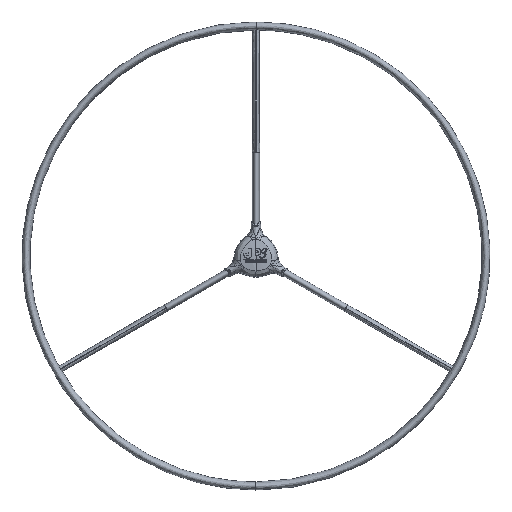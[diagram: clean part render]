
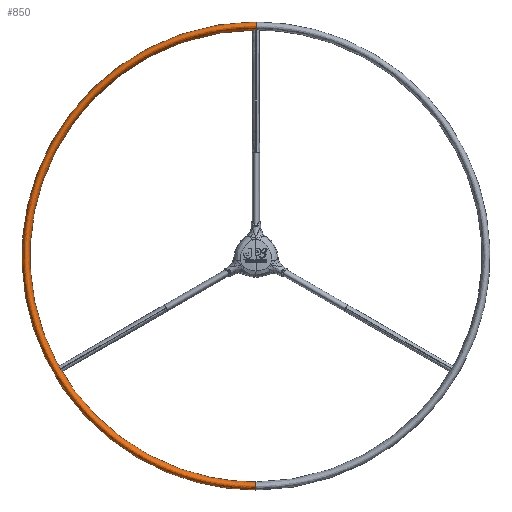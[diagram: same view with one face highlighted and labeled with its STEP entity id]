
A CAD part, front view. The second image highlights one B-rep face of the part: STEP entity #850.
In plain terms, the highlighted free-form (B-spline) face has degree [2, 2] with [5, 5] control points.
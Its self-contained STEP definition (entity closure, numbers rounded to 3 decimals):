
#414=(
BOUNDED_CURVE()
B_SPLINE_CURVE(2,(#27651,#27652,#27653,#27654,#27655),.UNSPECIFIED.,.F.,
.F.)
B_SPLINE_CURVE_WITH_KNOTS((3,2,3),(0.,1.571,3.142),
.UNSPECIFIED.)
CURVE()
GEOMETRIC_REPRESENTATION_ITEM()
RATIONAL_B_SPLINE_CURVE((1.,0.707,1.,0.707,1.))
REPRESENTATION_ITEM('')
);
#415=(
BOUNDED_CURVE()
B_SPLINE_CURVE(2,(#27656,#27657,#27658,#27659,#27660),.UNSPECIFIED.,.F.,
.F.)
B_SPLINE_CURVE_WITH_KNOTS((3,2,3),(0.,1.571,3.142),
.UNSPECIFIED.)
CURVE()
GEOMETRIC_REPRESENTATION_ITEM()
RATIONAL_B_SPLINE_CURVE((1.,0.707,1.,0.707,1.))
REPRESENTATION_ITEM('')
);
#416=(
BOUNDED_CURVE()
B_SPLINE_CURVE(2,(#27661,#27662,#27663,#27664,#27665),.UNSPECIFIED.,.F.,
.F.)
B_SPLINE_CURVE_WITH_KNOTS((3,2,3),(0.,1.571,3.142),
.UNSPECIFIED.)
CURVE()
GEOMETRIC_REPRESENTATION_ITEM()
RATIONAL_B_SPLINE_CURVE((1.,0.707,1.,0.707,1.))
REPRESENTATION_ITEM('')
);
#418=(
BOUNDED_CURVE()
B_SPLINE_CURVE(2,(#27671,#27672,#27673,#27674,#27675),.UNSPECIFIED.,.F.,
.F.)
B_SPLINE_CURVE_WITH_KNOTS((3,2,3),(0.,1.571,3.142),
.UNSPECIFIED.)
CURVE()
GEOMETRIC_REPRESENTATION_ITEM()
RATIONAL_B_SPLINE_CURVE((1.,0.707,1.,0.707,1.))
REPRESENTATION_ITEM('')
);
#850=ADVANCED_FACE('',(#1090),#3705,.T.);
#1090=FACE_OUTER_BOUND('',#1330,.T.);
#1330=EDGE_LOOP('',(#2455,#2456,#2457,#2458));
#2455=ORIENTED_EDGE('',*,*,#3077,.F.);
#2456=ORIENTED_EDGE('',*,*,#3076,.T.);
#2457=ORIENTED_EDGE('',*,*,#3078,.T.);
#2458=ORIENTED_EDGE('',*,*,#3080,.F.);
#3076=EDGE_CURVE('',#3519,#3520,#414,.T.);
#3077=EDGE_CURVE('',#3519,#3521,#415,.T.);
#3078=EDGE_CURVE('',#3520,#3522,#416,.T.);
#3080=EDGE_CURVE('',#3521,#3522,#418,.T.);
#3519=VERTEX_POINT('',#27791);
#3520=VERTEX_POINT('',#27792);
#3521=VERTEX_POINT('',#27793);
#3522=VERTEX_POINT('',#27794);
#3705=(
BOUNDED_SURFACE()
B_SPLINE_SURFACE(2,2,((#27741,#27742,#27743,#27744,#27745),(#27746,#27747,
#27748,#27749,#27750),(#27751,#27752,#27753,#27754,#27755),(#27756,#27757,
#27758,#27759,#27760),(#27761,#27762,#27763,#27764,#27765)),.UNSPECIFIED.,
.F.,.F.,.F.)
B_SPLINE_SURFACE_WITH_KNOTS((3,2,3),(3,2,3),(0.,1.571,3.142),
(0.,1.571,3.142),.UNSPECIFIED.)
GEOMETRIC_REPRESENTATION_ITEM()
RATIONAL_B_SPLINE_SURFACE(((1.,0.707,1.,0.707,1.),
(0.707,0.5,0.707,0.5,0.707),(1.,0.707,
1.,0.707,1.),(0.707,0.5,0.707,0.5,0.707),
(1.,0.707,1.,0.707,1.)))
REPRESENTATION_ITEM('')
SURFACE()
);
#27651=CARTESIAN_POINT('',(0.,-23.,525.));
#27652=CARTESIAN_POINT('',(-525.,-23.,525.));
#27653=CARTESIAN_POINT('',(-525.,-23.,0.));
#27654=CARTESIAN_POINT('',(-525.,-23.,-525.));
#27655=CARTESIAN_POINT('',(0.,-23.,-525.));
#27656=CARTESIAN_POINT('',(0.,-23.,525.));
#27657=CARTESIAN_POINT('',(0.,-38.5,525.));
#27658=CARTESIAN_POINT('',(0.,-38.5,516.));
#27659=CARTESIAN_POINT('',(0.,-38.5,507.));
#27660=CARTESIAN_POINT('',(0.,-23.,507.));
#27661=CARTESIAN_POINT('',(0.,-23.,-525.));
#27662=CARTESIAN_POINT('',(0.,-38.5,-525.));
#27663=CARTESIAN_POINT('',(0.,-38.5,-516.));
#27664=CARTESIAN_POINT('',(0.,-38.5,-507.));
#27665=CARTESIAN_POINT('',(0.,-23.,-507.));
#27671=CARTESIAN_POINT('',(0.,-23.,507.));
#27672=CARTESIAN_POINT('',(-507.,-23.,507.));
#27673=CARTESIAN_POINT('',(-507.,-23.,0.));
#27674=CARTESIAN_POINT('',(-507.,-23.,-507.));
#27675=CARTESIAN_POINT('',(0.,-23.,-507.));
#27741=CARTESIAN_POINT('',(0.,-23.,525.));
#27742=CARTESIAN_POINT('',(0.,-38.5,525.));
#27743=CARTESIAN_POINT('',(0.,-38.5,516.));
#27744=CARTESIAN_POINT('',(0.,-38.5,507.));
#27745=CARTESIAN_POINT('',(0.,-23.,507.));
#27746=CARTESIAN_POINT('',(-525.,-23.,525.));
#27747=CARTESIAN_POINT('',(-525.,-38.5,525.));
#27748=CARTESIAN_POINT('',(-516.,-38.5,516.));
#27749=CARTESIAN_POINT('',(-507.,-38.5,507.));
#27750=CARTESIAN_POINT('',(-507.,-23.,507.));
#27751=CARTESIAN_POINT('',(-525.,-23.,0.));
#27752=CARTESIAN_POINT('',(-525.,-38.5,0.));
#27753=CARTESIAN_POINT('',(-516.,-38.5,0.));
#27754=CARTESIAN_POINT('',(-507.,-38.5,0.));
#27755=CARTESIAN_POINT('',(-507.,-23.,0.));
#27756=CARTESIAN_POINT('',(-525.,-23.,-525.));
#27757=CARTESIAN_POINT('',(-525.,-38.5,-525.));
#27758=CARTESIAN_POINT('',(-516.,-38.5,-516.));
#27759=CARTESIAN_POINT('',(-507.,-38.5,-507.));
#27760=CARTESIAN_POINT('',(-507.,-23.,-507.));
#27761=CARTESIAN_POINT('',(0.,-23.,-525.));
#27762=CARTESIAN_POINT('',(0.,-38.5,-525.));
#27763=CARTESIAN_POINT('',(0.,-38.5,-516.));
#27764=CARTESIAN_POINT('',(0.,-38.5,-507.));
#27765=CARTESIAN_POINT('',(0.,-23.,-507.));
#27791=CARTESIAN_POINT('',(0.,-23.,525.));
#27792=CARTESIAN_POINT('',(0.,-23.,-525.));
#27793=CARTESIAN_POINT('',(0.,-23.,507.));
#27794=CARTESIAN_POINT('',(0.,-23.,-507.));
